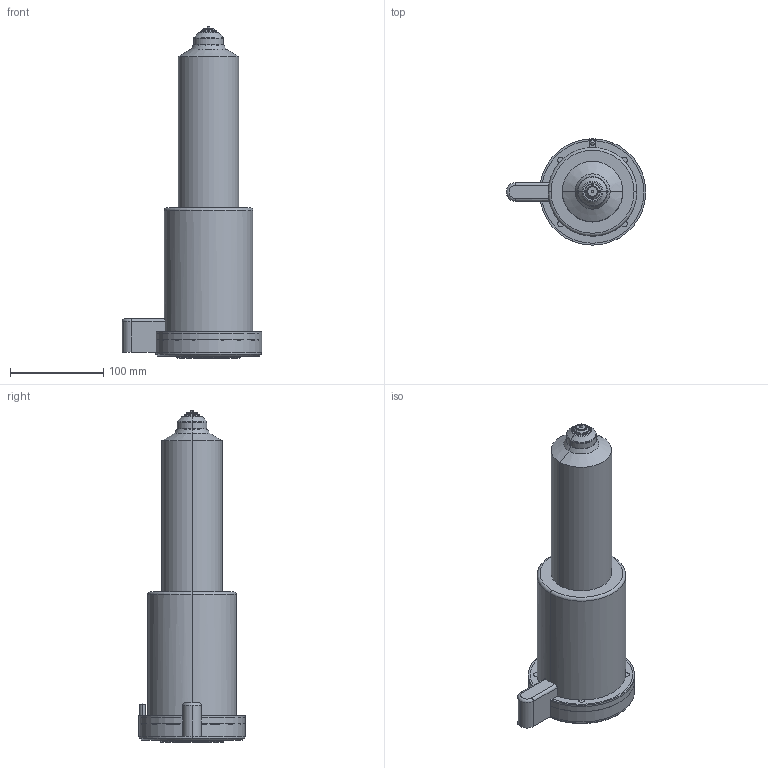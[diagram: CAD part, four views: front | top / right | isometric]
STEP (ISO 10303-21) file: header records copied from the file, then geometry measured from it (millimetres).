
FILE_DESCRIPTION (( 'STEP AP214' ), '1' );
FILE_NAME ('SR24_OPEN_350_BAND.STEP', '2009-05-07T18:33:19', ( 'Synventive Molding Solutions' ), ( 'Synventive Molding Solutions' ), 'SwSTEP 2.0', 'SolidWorks 2008', '' );
FILE_SCHEMA (( 'AUTOMOTIVE_DESIGN' ));
Length unit declared in the file: millimetre
Products named in the file (1): SR24_OPEN_350_BAND
Bounding box: 149.5 x 114 x 356 mm (x, y, z)
Volume: 2874024.9 mm3; surface area: 254898.8 mm2
Topology: 5 solids, 5 shells, 450 faces, 1123 edges, 698 vertices
Faces by surface type: cylinder 175, plane 149, torus 74, cone 44, sphere 4, bspline 4
Entity records: 19700 total; most frequent: CARTESIAN_POINT 3842, DIRECTION 2371, ORIENTED_EDGE 2230, EDGE_CURVE 1115, AXIS2_PLACEMENT_3D 957, VERTEX_POINT 698, CIRCLE 510, EDGE_LOOP 495
